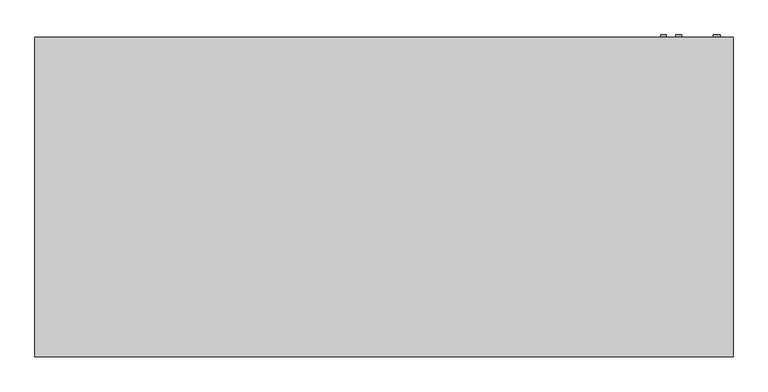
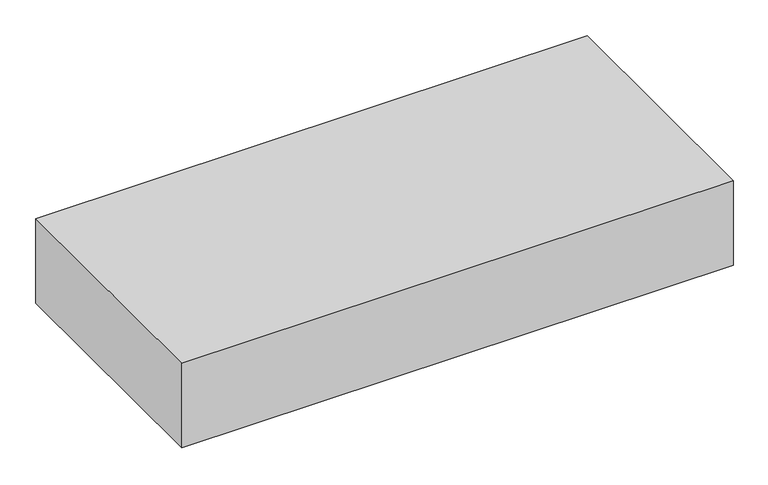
"""IFC4 building model written with IfcOpenShell, lengths in millimetres: proxy geometry, Exposed_Horizontal_Fan_Coil_Unit_-_42CGB_-_CARRIER_-_2-Pipe_Cool-EHeat_BS-BR_RH_2022 : Size 10 - 277v/60Hz/1Ph - 4 Row 8.0kW."""

from ifc_helpers import new_model, si_unit, point, frame, frame_2d, origin, place, context, project, spatial, polyline, circle_curve, trimmed, segment, composite_curve, outline, extrude, source, transform, mapped, element, save


def mechanical_equipment_3e15ce00(model_context):
    return source(origin(), model_context, "Body", "SweptSolid", [
        extrude(outline(polyline([(814.3875, -433.3875), (814.3875, -604.8375), (-509.5875, -604.8375), (-509.5875, -433.3875), (814.3875, -433.3875)])), frame((0.0, 0.0, -311.15), z_axis=(0.0, 0.0, 1.0), x_axis=(1.0, 0.0, 0.0)), (0.0, 0.0, 1.0), 6.35),
        extrude(outline(composite_curve([segment(trimmed(circle_curve(frame_2d((-60.325, 904.875)), 7.9375), [point((-60.325, 912.8125))], [point((-60.325, 896.9375))], False, "CARTESIAN"), True, "CONTINUOUS"), segment(trimmed(circle_curve(frame_2d((-60.325, 904.875)), 7.9375), [point((-60.325, 896.9375))], [point((-60.325, 912.8125))], False, "CARTESIAN"), True, "CONTINUOUS")], self_intersect=False)), frame((0.0, 192.0875, 0.0), z_axis=(0.0, 1.0, 0.0), x_axis=(0.0, 0.0, 1.0)), (0.0, 0.0, 1.0), 6.35),
        extrude(outline(composite_curve([segment(trimmed(circle_curve(frame_2d((-95.25, 946.15)), 7.9375), [point((-95.25, 954.0875))], [point((-95.25, 938.2125))], False, "CARTESIAN"), True, "CONTINUOUS"), segment(trimmed(circle_curve(frame_2d((-95.25, 946.15)), 7.9375), [point((-95.25, 938.2125))], [point((-95.25, 954.0875))], False, "CARTESIAN"), True, "CONTINUOUS")], self_intersect=False)), frame((0.0, 192.0875, 0.0), z_axis=(0.0, 1.0, 0.0), x_axis=(0.0, 0.0, 1.0)), (0.0, 0.0, 1.0), 6.35),
        extrude(outline(composite_curve([segment(trimmed(circle_curve(frame_2d((-260.35, 1047.75)), 9.525), [point((-260.35, 1057.275))], [point((-260.35, 1038.225))], False, "CARTESIAN"), True, "CONTINUOUS"), segment(trimmed(circle_curve(frame_2d((-260.35, 1047.75)), 9.525), [point((-260.35, 1038.225))], [point((-260.35, 1057.275))], False, "CARTESIAN"), True, "CONTINUOUS")], self_intersect=False)), frame((0.0, 192.0875, 0.0), z_axis=(0.0, 1.0, 0.0), x_axis=(0.0, 0.0, 1.0)), (0.0, 0.0, 1.0), 6.35),
        extrude(outline(polyline([(-787.4, 192.0875), (1092.2, 192.0875), (1092.2, -668.3375), (-787.4, -668.3375), (-787.4, 192.0875)])), frame((0.0, 0.0, -304.8), z_axis=(0.0, 0.0, 1.0), x_axis=(1.0, 0.0, 0.0)), (0.0, 0.0, 1.0), 304.8),
        extrude(outline(polyline([(844.55, 115.8875), (844.55, -138.1125), (-539.75, -138.1125), (-539.75, 115.8875), (844.55, 115.8875)])), frame((0.0, 0.0, -311.15), z_axis=(0.0, 0.0, 1.0), x_axis=(1.0, 0.0, 0.0)), (0.0, 0.0, 1.0), 6.35),
    ])


if __name__ == "__main__":
    model = new_model("IFC4")
    model_context = context("Model", 3, world=origin())
    ifc_project = project(units=[si_unit("LENGTHUNIT", "METRE", prefix="MILLI")], contexts=[model_context])
    site = spatial("IfcSite", under=ifc_project)
    building = spatial("IfcBuilding", under=site)
    placement = place(None, origin())
    mechanical_equipment_shape = mechanical_equipment_3e15ce00(model_context)
    element("IfcBuildingElementProxy", 1, Name="Exposed_Horizontal_Fan_Coil_Unit_-_42CGB_-_CARRIER_-_2-Pipe_Cool-EHeat_BS-BR_RH_2022 : Size 10 - 277v/60Hz/1Ph - 4 Row 8.0kW", ObjectType="Exposed_Horizontal_Fan_Coil_Unit_-_42CGB_-_CARRIER_-_2-Pipe_Cool-EHeat_BS-BR_RH_2022 : Size 10 - 277v/60Hz/1Ph - 4 Row 8.0kW", at=placement, inside=building, context=model_context, shape_type="MappedRepresentation", body=[
        mapped(mechanical_equipment_shape, transform((0.0, 0.0, 0.0), x_axis=(1.0, 0.0, 0.0), y_axis=(0.0, 1.0, 0.0), z_axis=(0.0, 0.0, 1.0))),
    ])
    save(model, "model.ifc")
